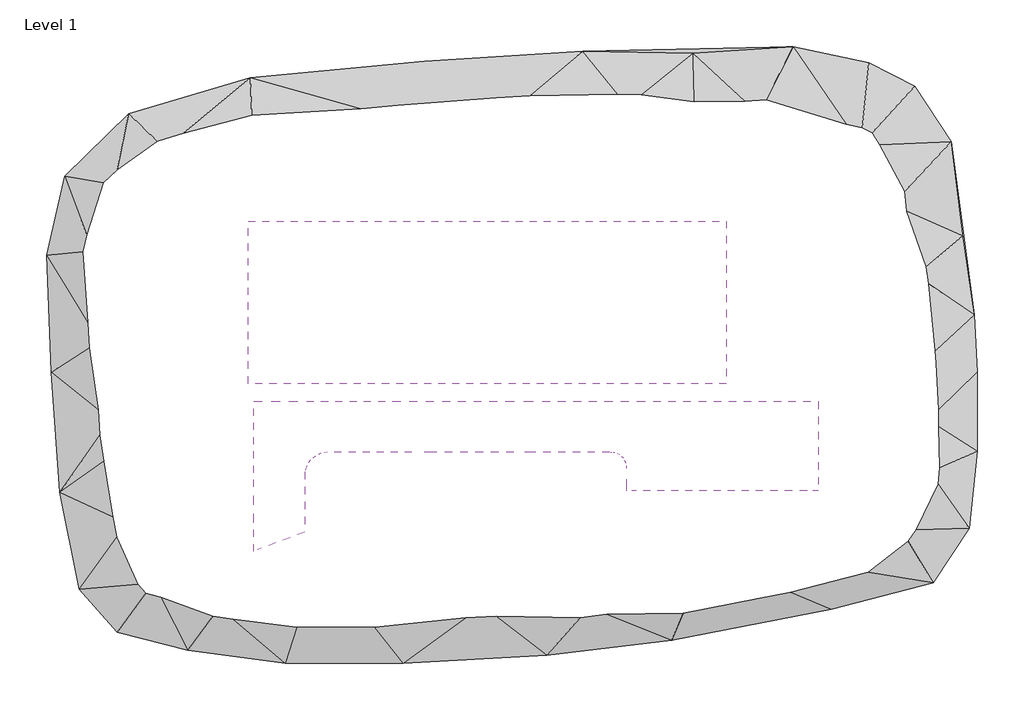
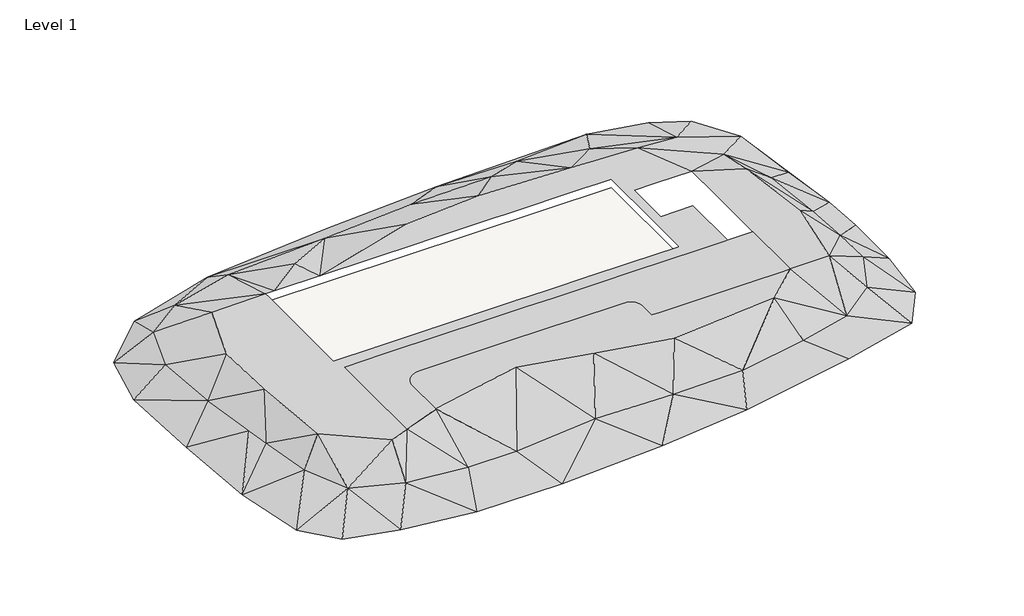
# One storey, incomplete: 2 proxies, 1 slab.
"""IFC4 building model written with IfcOpenShell, lengths in millimetres."""

import ifcopenshell
import ifcopenshell.guid

model = None  # the IFC model being written
_history = None  # IfcOwnerHistory: only IFC2X3 demands one
_inside = {}  # id of a spatial element -> (the spatial element, [elements in it])
_under = {}  # id of a project, library or spatial element -> (it, [spatial elements below it])
_declared = {}  # id of a project -> (the project, [libraries it declares])
_typed = {}  # id of a type object -> (the type object, [elements of that type])
_made_of = {}  # id of a material, layer set ... -> (it, [elements and type objects made of it])


def new_model(schema):
    """Start an empty IFC model of exactly this schema.

    Asked for "IFC4X3", IfcOpenShell would pick the latest addendum, in which some entities
    have other attributes; the version numbers below select the first issue.
    IFC2X3 requires an IfcOwnerHistory on every rooted entity: one is made here for all.
    """
    global model, _history
    if schema == "IFC4X3":
        model = ifcopenshell.file(schema_version=(4, 3, 0, 0))
    else:
        model = ifcopenshell.file(schema=schema)
    _inside.clear()
    _under.clear()
    _declared.clear()
    _typed.clear()
    _made_of.clear()
    _history = None
    if model.schema == "IFC2X3":
        org = make("IfcOrganization", Name="unknown")
        user = make(
            "IfcPersonAndOrganization",
            ThePerson=make("IfcPerson", FamilyName="unknown"),
            TheOrganization=org,
        )
        app = make(
            "IfcApplication",
            ApplicationDeveloper=org,
            Version="unknown",
            ApplicationFullName="unknown",
            ApplicationIdentifier="unknown",
        )
        _history = make(
            "IfcOwnerHistory",
            OwningUser=user,
            OwningApplication=app,
            ChangeAction="ADDED",
            CreationDate=0,
        )
    return model


def make(cls, **values):
    """One entity of the class cls with the attributes given. An attribute that is None is left unset."""
    return model.create_entity(
        cls, **{name: value for name, value in values.items() if value is not None}
    )


def rooted(cls, **values):
    """An entity with a GlobalId (a new one), such as an element, a storey or a relation."""
    return make(cls, GlobalId=ifcopenshell.guid.new(), OwnerHistory=_history, **values)


def si_unit(unit_type, name, prefix=None):
    """IfcSIUnit, for example si_unit("LENGTHUNIT", "METRE", prefix="MILLI")."""
    return make("IfcSIUnit", UnitType=unit_type, Prefix=prefix, Name=name)


def assignment(units):
    """IfcUnitAssignment: the units of a project."""
    return None if units is None else make("IfcUnitAssignment", Units=units)


def point(xyz):
    """IfcCartesianPoint."""
    return None if xyz is None else make("IfcCartesianPoint", Coordinates=xyz)


def direction(xyz):
    """IfcDirection."""
    return None if xyz is None else make("IfcDirection", DirectionRatios=xyz)


def frame(location, z_axis=None, x_axis=None):
    """IfcAxis2Placement3D, a coordinate frame: its origin and axes. An axis left out is left unset."""
    return make(
        "IfcAxis2Placement3D",
        Location=point(location),
        Axis=direction(z_axis),
        RefDirection=direction(x_axis),
    )


def origin():
    """The frame at (0, 0, 0) with its axes left unset."""
    return frame((0.0, 0.0, 0.0))


def place(relative_to, where):
    """IfcLocalPlacement: puts the frame where relative to a parent placement (None: the world)."""
    return make(
        "IfcLocalPlacement", PlacementRelTo=relative_to, RelativePlacement=where
    )


def context(
    kind, dimensions, precision=None, world=None, true_north=None, identifier=None
):
    """IfcGeometricRepresentationContext, for example the 3D "Model" context."""
    return make(
        "IfcGeometricRepresentationContext",
        ContextIdentifier=identifier,
        ContextType=kind,
        CoordinateSpaceDimension=dimensions,
        Precision=precision,
        WorldCoordinateSystem=world,
        TrueNorth=true_north,
    )


def project(units=None, contexts=None):
    """IfcProject with its units and contexts."""
    return rooted(
        "IfcProject",
        Name="project",
        RepresentationContexts=contexts,
        UnitsInContext=assignment(units),
    )


def spatial(cls, under=None, at=None, **own):
    """A site, building, storey or space (cls), placed at a placement, below another one or the project."""
    s = rooted(cls, ObjectPlacement=at, **own)
    if under is not None:
        _under.setdefault(under.id(), (under, []))[1].append(s)
    return s


def polyline(points):
    """IfcPolyline through the points."""
    return make("IfcPolyline", Points=[point(p) for p in points])


def point_list(points):
    """IfcCartesianPointList2D or 3D."""
    cls = (
        "IfcCartesianPointList2D" if len(points[0]) == 2 else "IfcCartesianPointList3D"
    )
    return make(cls, CoordList=points)


def outline(outer, holes=None, kind="AREA"):
    """IfcArbitraryClosedProfileDef: a profile drawn as a closed curve; with holes, ...WithVoids."""
    if holes is None:
        return make("IfcArbitraryClosedProfileDef", ProfileType=kind, OuterCurve=outer)
    return make(
        "IfcArbitraryProfileDefWithVoids",
        ProfileType=kind,
        OuterCurve=outer,
        InnerCurves=holes,
    )


def extrude(swept, where, along, depth):
    """IfcExtrudedAreaSolid: the profile swept, set in the frame where, extruded along a direction by depth."""
    return make(
        "IfcExtrudedAreaSolid",
        SweptArea=swept,
        Position=where,
        ExtrudedDirection=direction(along),
        Depth=depth,
    )


def triangles(points, corners, closed=None, point_numbers=None):
    """IfcTriangulatedFaceSet: each triangle names its three corners, points numbered from 1."""
    return make(
        "IfcTriangulatedFaceSet",
        Coordinates=point_list(points),
        Closed=closed,
        CoordIndex=corners,
        PnIndex=point_numbers,
    )


def shape(context_of_items, identifier, shape_type, items):
    """IfcShapeRepresentation: the items that make up one representation, for example the "Body"."""
    return make(
        "IfcShapeRepresentation",
        ContextOfItems=context_of_items,
        RepresentationIdentifier=identifier,
        RepresentationType=shape_type,
        Items=items,
    )


def made_of(thing, what):
    """Note that an element or type object is made of a material, layer set ...; save() writes the relation."""
    if what is not None:
        _made_of.setdefault(what.id(), (what, []))[1].append(thing)
    return thing


def element(
    cls,
    number,
    at=None,
    inside=None,
    cuts=None,
    type_object=None,
    material=None,
    context=None,
    identifier="Body",
    shape_type=None,
    held_by="IfcProductDefinitionShape",
    body=None,
    shapes=None,
    **own,
):
    """One element of the class cls, such as IfcWall. Its Tag is "e" and its number.

    at: its placement. inside: the storey or other place that contains it. cuts: it is an
    opening in that element (IfcRelVoidsElement). A single representation is given by context,
    identifier, shape_type and body (its items); several are given by shapes. held_by: the class
    of the entity that holds the representations. save() writes the other relations.
    """
    e = rooted(cls, Tag="e%d" % number, ObjectPlacement=at, **own)
    if body is not None:
        shapes = [shape(context, identifier, shape_type, body)]
    if shapes is not None:
        e.Representation = make(held_by, Representations=shapes)
    if inside is not None:
        _inside.setdefault(inside.id(), (inside, []))[1].append(e)
    if cuts is not None:
        rooted(
            "IfcRelVoidsElement", RelatingBuildingElement=cuts, RelatedOpeningElement=e
        )
    if type_object is not None:
        _typed.setdefault(type_object.id(), (type_object, []))[1].append(e)
    return made_of(e, material)


def aggregate(whole, parts):
    """IfcRelAggregates: a whole, such as a stair, and the parts it consists of."""
    return rooted("IfcRelAggregates", RelatingObject=whole, RelatedObjects=parts)


def save(model, path):
    """Write the relations noted so far, then the file.

    IfcRelAggregates (storeys below a building ...), IfcRelContainedInSpatialStructure (elements
    in a storey), IfcRelDefinesByType, IfcRelAssociatesMaterial and IfcRelDeclares: one each for
    every whole, place, type object, material and project.
    """
    for whole, parts in _under.values():
        aggregate(whole, parts)
    for where, things in _inside.values():
        rooted(
            "IfcRelContainedInSpatialStructure",
            RelatedElements=things,
            RelatingStructure=where,
        )
    for kind, things in _typed.values():
        rooted("IfcRelDefinesByType", RelatedObjects=things, RelatingType=kind)
    for what, things in _made_of.values():
        rooted("IfcRelAssociatesMaterial", RelatedObjects=things, RelatingMaterial=what)
    for by, libraries in _declared.values():
        rooted("IfcRelDeclares", RelatingContext=by, RelatedDefinitions=libraries)
    model.write(path)


model = new_model("IFC4")

# Units and contexts
model_context = context("Model", 3, world=origin())
ifc_project = project(units=[si_unit("LENGTHUNIT", "METRE", prefix="MILLI")], contexts=[model_context])

# Site, building, storey
site = spatial("IfcSite", under=ifc_project)
building = spatial("IfcBuilding", under=site)
storey = spatial("IfcBuildingStorey", under=building, Name="Level 1", Elevation=0.0)

# Proxies
placement = place(None, origin())
element("IfcBuildingElementProxy", 1, Name="Building Element Proxy", at=placement, inside=storey, context=model_context, shape_type="Tessellation", body=[
    triangles([(-20721.235199, 9977.6374878, 0.0), (-21586.4312256, 6202.2336319, 0.0), (-21350.4688843, 617.78155, 0.0), (-20957.1975403, -5123.9790985, 0.0), (-20013.348175, -9764.5795624, 0.0), (-18204.299295, -11809.5907837, 0.0), (-14822.1662018, -12674.7868103, 0.0), (-10181.5657379, -13304.0216583, 0.0), (-4518.4593727, -13304.0216583, 0.0), (2324.4607338, -12910.7503143, 0.0), (8302.1839417, -12202.8621277, 0.0), (15931.6461548, -10708.4312531, 0.0), (20808.2112854, -9449.9627197, 0.0), (22538.6033386, -6854.3723145, 0.0), (22931.8746826, -3157.6226692, 0.0), (22931.8746826, 617.78155, 0.0), (22774.5656799, 3370.680304, 0.0), (21673.407312, 11629.3773651, 0.0), (19943.0129333, 14303.621109, 0.0), (17740.6938721, 15404.7806396, 0.0), (14122.5984375, 16191.3233276, 0.0), (4054.8542404, 15955.3609863, 0.0), (-3495.9540527, 15483.435141, 0.0), (-11833.3044525, 14696.892453, 0.0), (-17653.7201111, 12966.4992371, 0.0), (-11932.7658234, 7844.5525726, 3048.0), (-11352.8512207, 7844.5525726, 3048.0), (-10357.9840393, 7844.5525726, 3048.0), (-9026.4885681, 7844.5525726, 3048.0), (-8338.1113998, 7844.5525726, 3048.0), (-1740.2135468, 7844.5525726, 3048.0), (-1181.4847149, 7844.5525726, 3048.0), (3206.7661812, 7844.5525726, 3048.0), (3847.1628479, 7844.5525726, 3048.0), (9074.3414612, 7844.5525726, 3048.0), (9934.172699, 7844.5525726, 3048.0), (10927.2341766, 7844.5525726, 3048.0), (10927.2341766, 3159.8934608, 3048.0), (10927.2341766, 72.1526271, 3048.0), (7588.9495697, 72.1526271, 3048.0), (4972.1156937, 72.1526271, 3048.0), (2230.697271, 72.1526271, 3048.0), (187.9381288, 72.1526271, 3048.0), (-2568.7434975, 72.1526271, 3048.0), (-5373.3813171, 72.1526271, 3048.0), (-9136.9963577, 72.1526271, 3048.0), (-11932.7658234, 72.1526271, 3048.0), (-11932.7658234, 5824.3782074, 3048.0), (-11932.7658234, 7415.4153946, 3048.0), (-11683.1473389, -782.4977314, 3048.0), (-9149.1479416, -782.4977314, 3048.0), (-5047.380867, -782.4977314, 3048.0), (-2659.8484016, -782.4977314, 3048.0), (338.5193808, -782.4977314, 3048.0), (2123.3690838, -782.4977314, 3048.0), (5095.8151199, -782.4977314, 3048.0), (7425.6165161, -782.4977314, 3048.0), (11762.9482819, -782.4977314, 3048.0), (13637.7210571, -782.4977314, 3048.0), (13637.7210571, 3179.9024139, 3048.0), (11504.1210571, 3179.9024139, 3048.0), (11504.1210571, 6227.9024139, 3048.0), (12885.6041748, 6227.9024139, 3048.0), (15314.1210571, 6227.9024139, 3048.0), (15314.1210571, 3552.416304, 3048.0), (15314.1210571, -782.4977314, 3048.0), (15314.1210571, -4415.0511497, 3048.0), (15314.1210571, -5049.6975861, 3048.0), (14788.8973022, -5049.6975861, 3048.0), (12667.5163239, -5049.6975861, 3048.0), (6610.1069916, -5049.6975861, 3048.0), (6170.1216385, -5049.6975861, 3048.0), (6170.1216385, -3975.0050446, 3048.0), (6128.8567154, -3728.4811386, 3048.0), (6009.559346, -3508.8332085, 3048.0), (5825.2368759, -3340.0074669, 3048.0), (5595.9834274, -3240.4097672, 3048.0), (5449.9097855, -3228.9720932, 3048.0), (5346.7922424, -3220.8975861, 3048.0), (1817.1514378, -3220.8975861, 3048.0), (768.1422123, -3220.8975861, 3048.0), (-2919.7793381, -3220.8975861, 3048.0), (-4117.2696167, -3220.8975861, 3048.0), (-8155.4783615, -3220.8975861, 3048.0), (-8461.8021057, -3264.2315689, 3048.0), (-8744.0860382, -3390.8328529, 3048.0), (-8980.17686, -3590.7654167, 3048.0), (-9151.5466324, -3848.3395203, 3048.0), (-9194.6794647, -3984.8646172, 3048.0), (-9244.7467575, -4143.3409904, 3048.0), (-9244.7467575, -7005.527623, 3048.0), (-9244.7467575, -7010.4308121, 3048.0), (-9244.7467575, -7014.374176, 3048.0), (-9244.7467575, -7030.8975861, 3041.7038727), (-11315.6906982, -7807.5019272, 3048.0), (-11683.1473389, -7945.2975861, 3048.0), (-11683.1473389, -6576.9375046, 3048.0), (-11683.1473389, -4871.927623, 3048.0), (-18518.9161377, -1663.1917946, 1524.0), (-19069.4964844, 2112.212352, 1524.0), (-19384.113327, 6438.1959732, 1524.0), (-18361.6082977, 9584.3661438, 1524.0), (-15923.3257324, 11314.7593597, 1524.0), (-11754.6511139, 12415.9188904, 1524.0), (-5147.6933487, 12809.1902344, 1524.0), (830.0298592, 13281.1160797, 1524.0), (6178.5188004, 13359.7705811, 1524.0), (12470.8597229, 12966.4992371, 1524.0), (17347.4225281, 11472.0683624, 1524.0), (18841.8534027, 8640.5156158, 1524.0), (20021.6685974, 5258.3825226, 1524.0), (20414.9399414, 1168.3613153, 1524.0), (20572.2466187, -1663.1917946, 1524.0), (20650.9022827, -4180.1279892, 1524.0), (19313.779248, -6933.0268158, 1524.0), (16875.4978455, -8820.7290344, 1524.0), (13493.3647522, -9685.9256424, 1524.0), (9010.0721283, -10551.1222504, 1524.0), (4369.4713737, -10629.7767517, 1524.0), (-743.0552261, -10551.1222504, 1524.0), (-6248.8528793, -11101.702597, 1524.0), (-9473.6775513, -11101.702597, 1524.0), (-13327.7353271, -10629.7767517, 1524.0), (-16473.9060791, -9449.9627197, 1524.0), (-17732.3734497, -6618.4099731, 1524.0), (-18282.9537964, -3236.2768799, 1524.0), (9324.6889709, 15876.706485, 0.0), (22223.9876587, 7146.0847412, 0.0), (-16867.1774231, 3763.9516479, 3048.0), (-15530.0543884, 7775.3184265, 3048.0), (-9001.7517059, 9584.3661438, 3048.0), (-1529.5977688, 9820.3296478, 3048.0), (3504.2744751, 10213.5998291, 3048.0), (9481.9979736, 9977.6374878, 3048.0), (13807.9815948, 9820.3296478, 3048.0), (18133.9652161, 4865.1111786, 3048.0), (18763.2000641, -247.4152578, 3048.0), (17898.0028748, -5045.3245972, 3048.0), (13100.0934082, -7090.3352371, 3048.0), (6099.8648804, -7719.5695038, 3048.0), (1380.6096245, -6697.0638931, 3048.0), (-3181.3369194, -5674.5588638, 3048.0), (-9237.7146286, -7011.6807358, 3048.0), (-12934.4639832, -8427.4576904, 3048.0), (-16316.5970764, -5753.2127838, 3048.0), (-16788.5229218, -404.72377, 3048.0)], [[6, 7, 124], [125, 5, 124], [124, 5, 6], [7, 123, 124], [8, 122, 123], [122, 8, 121], [123, 96, 144], [96, 123, 122], [145, 124, 144], [123, 144, 124], [122, 95, 96], [8, 123, 7], [97, 144, 96], [4, 125, 126], [125, 4, 5], [126, 146, 99], [126, 99, 4], [126, 125, 145], [4, 99, 3], [97, 145, 144], [145, 98, 146], [98, 145, 97], [145, 146, 126], [145, 125, 124], [95, 122, 94], [93, 94, 143], [91, 92, 143], [93, 143, 92], [121, 9, 120], [9, 121, 8], [121, 142, 143], [142, 121, 120], [81, 142, 141], [84, 90, 143], [9, 10, 120], [121, 143, 94], [94, 122, 121], [84, 143, 142], [88, 89, 87], [86, 87, 89], [89, 85, 86], [84, 142, 83], [142, 82, 83], [84, 85, 89], [90, 84, 89], [142, 81, 82], [142, 120, 141], [143, 90, 91], [3, 100, 2], [3, 99, 100], [2, 101, 1], [101, 2, 100], [100, 129, 101], [146, 50, 47], [50, 146, 98], [129, 47, 48], [47, 129, 146], [101, 129, 130], [146, 129, 100], [99, 146, 100], [130, 129, 48], [1, 102, 25], [1, 101, 102], [25, 103, 24], [103, 25, 102], [102, 130, 103], [130, 49, 26], [49, 130, 48], [24, 103, 104], [27, 104, 26], [24, 104, 105], [103, 26, 104], [103, 130, 26], [101, 130, 102], [46, 47, 50], [51, 45, 46], [45, 51, 52], [46, 50, 51], [53, 54, 43], [53, 44, 52], [44, 53, 43], [52, 44, 45], [28, 29, 131], [131, 30, 105], [30, 131, 29], [105, 30, 132], [105, 23, 24], [28, 131, 27], [31, 32, 132], [105, 106, 23], [105, 132, 106], [133, 106, 132], [23, 106, 22], [33, 132, 32], [132, 30, 31], [104, 131, 105], [42, 43, 54], [131, 104, 27], [119, 141, 120], [119, 10, 11], [141, 140, 72], [140, 141, 119], [119, 118, 140], [119, 120, 10], [139, 71, 140], [118, 11, 117], [141, 72, 80], [72, 140, 71], [118, 119, 11], [79, 72, 73], [78, 79, 73], [79, 80, 72], [75, 76, 78], [77, 78, 76], [78, 74, 75], [74, 78, 73], [41, 56, 57], [139, 140, 118], [68, 139, 116], [139, 70, 71], [68, 69, 139], [139, 117, 116], [139, 69, 70], [12, 13, 116], [13, 115, 116], [115, 13, 14], [138, 116, 115], [68, 116, 138], [12, 116, 117], [117, 11, 12], [114, 115, 14], [39, 58, 59], [58, 39, 57], [66, 138, 137], [113, 114, 15], [114, 113, 138], [15, 114, 14], [113, 15, 16], [138, 115, 114], [138, 66, 67], [68, 138, 67], [137, 138, 113], [118, 117, 139], [55, 41, 42], [55, 56, 41], [133, 132, 33], [41, 57, 40], [38, 61, 62], [61, 38, 39], [39, 60, 61], [39, 40, 57], [38, 62, 37], [107, 133, 134], [34, 133, 33], [22, 107, 127], [22, 106, 107], [133, 34, 35], [106, 133, 107], [35, 36, 134], [108, 127, 134], [127, 107, 134], [37, 134, 36], [37, 135, 134], [134, 133, 35], [22, 127, 21], [37, 62, 63], [54, 55, 42], [136, 64, 65], [65, 137, 136], [113, 112, 137], [112, 113, 16], [111, 112, 17], [111, 136, 112], [17, 112, 16], [111, 17, 128], [112, 136, 137], [39, 59, 60], [110, 136, 111], [109, 135, 110], [108, 134, 135], [108, 109, 21], [109, 108, 135], [21, 109, 20], [108, 21, 127], [135, 64, 110], [135, 63, 64], [110, 128, 18], [110, 64, 136], [19, 20, 109], [109, 18, 19], [128, 17, 18], [109, 110, 18], [111, 128, 110], [135, 37, 63], [65, 66, 137], [80, 81, 141]], closed=False),
])
element("IfcBuildingElementProxy", 2, Name="Building Element Proxy", at=placement, inside=storey, context=model_context, shape_type="Tessellation", body=[
    triangles([(-11683.1473389, -782.4977314, 3048.0), (-11683.1473389, -4871.927623, 3048.0), (-11683.1473389, -6576.9375046, 3048.0), (-11683.1473389, -7945.2975861, 3048.0), (-11315.6906982, -7807.5019272, 3048.0), (-9244.7467575, -7030.8975861, 3041.7038727), (-9244.7467575, -7014.374176, 3048.0), (-9244.7467575, -7010.4308121, 3048.0), (-9244.7467575, -7005.527623, 3048.0), (-9244.7467575, -4143.3409904, 3048.0), (-9194.6794647, -3984.8646172, 3048.0), (-9151.5466324, -3848.3395203, 3048.0), (-8980.17686, -3590.7654167, 3048.0), (-8744.0860382, -3390.8328529, 3048.0), (-8461.8021057, -3264.2315689, 3048.0), (-8155.4783615, -3220.8975861, 3048.0), (-4117.2696167, -3220.8975861, 3048.0), (-2919.7793381, -3220.8975861, 3048.0), (768.1422123, -3220.8975861, 3048.0), (1817.1514378, -3220.8975861, 3048.0), (5346.7922424, -3220.8975861, 3048.0), (5449.9097855, -3228.9720932, 3048.0), (5595.9834274, -3240.4097672, 3048.0), (5825.2368759, -3340.0074669, 3048.0), (6009.559346, -3508.8332085, 3048.0), (6128.8567154, -3728.4811386, 3048.0), (6170.1216385, -3975.0050446, 3048.0), (6170.1216385, -5049.6975861, 3048.0), (6610.1069916, -5049.6975861, 3048.0), (12667.5163239, -5049.6975861, 3048.0), (14788.8973022, -5049.6975861, 3048.0), (15314.1210571, -5049.6975861, 3048.0), (15314.1210571, -4415.0511497, 3048.0), (15314.1210571, -782.4977314, 3048.0), (11762.9482819, -782.4977314, 3048.0), (7425.6165161, -782.4977314, 3048.0), (5095.8151199, -782.4977314, 3048.0), (2123.3690838, -782.4977314, 3048.0), (338.5193808, -782.4977314, 3048.0), (-2659.8484016, -782.4977314, 3048.0), (-5047.380867, -782.4977314, 3048.0), (-9149.1479416, -782.4977314, 3048.0)], [[4, 5, 3], [2, 3, 9], [5, 9, 3], [6, 7, 5], [9, 5, 8], [10, 11, 2], [10, 2, 9], [8, 5, 7], [2, 11, 12], [12, 13, 1], [13, 42, 1], [42, 13, 14], [42, 14, 15], [12, 1, 2], [16, 17, 41], [16, 41, 42], [17, 40, 41], [40, 17, 18], [40, 18, 39], [16, 42, 15], [27, 28, 29], [36, 25, 26], [36, 24, 25], [26, 27, 36], [31, 32, 33], [29, 30, 35], [33, 30, 31], [27, 29, 36], [35, 30, 33], [19, 20, 38], [19, 38, 39], [37, 38, 21], [38, 20, 21], [19, 39, 18], [23, 36, 37], [23, 37, 22], [24, 36, 23], [29, 35, 36], [33, 34, 35], [22, 37, 21]], closed=False),
])

# Slab
element("IfcSlab", 3, ObjectType="Pad 1", at=placement, inside=storey, context=model_context, shape_type="SweptSolid", body=[
    extrude(outline(polyline([(-11932.7662416, 7844.5526249), (10927.2337584, 7844.5526249), (10927.2337584, 72.1526249), (-11932.7662416, 72.1526249), (-11932.7662416, 7844.5526249)])), frame((0.0, 0.0, 1828.8), z_axis=(0.0, 0.0, 1.0), x_axis=(1.0, 0.0, 0.0)), (0.0, 0.0, 1.0), 609.6),
])

save(model, "model.ifc")
